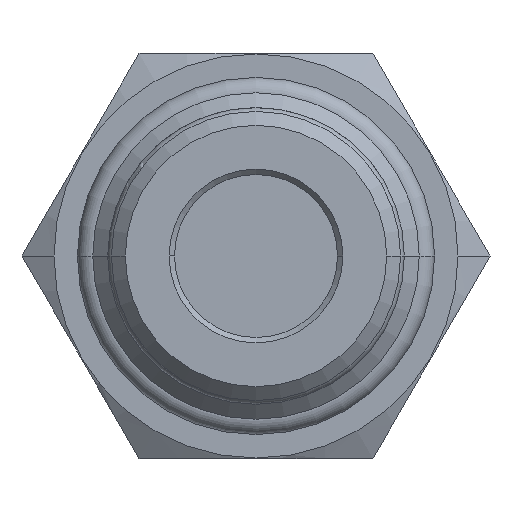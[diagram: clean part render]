
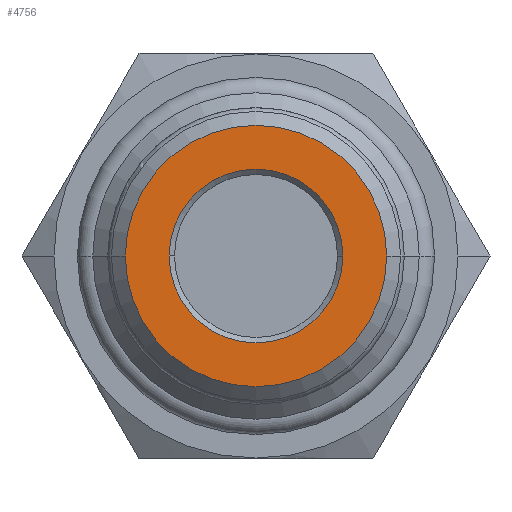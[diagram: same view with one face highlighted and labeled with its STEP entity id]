
A CAD part, front view. The second image highlights one B-rep face of the part: STEP entity #4756.
In plain terms, the highlighted planar face has unit normal (0, -1, 0).
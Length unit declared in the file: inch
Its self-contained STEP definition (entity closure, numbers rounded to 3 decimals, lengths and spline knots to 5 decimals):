
#2492=CARTESIAN_POINT('',(0.,-1.75,0.));
#2493=DIRECTION('',(0.,-1.,0.));
#2494=DIRECTION('',(1.,0.,0.));
#2495=AXIS2_PLACEMENT_3D('',#2492,#2493,#2494);
#2500=CARTESIAN_POINT('',(0.,-1.75,0.));
#2501=DIRECTION('',(0.,-1.,0.));
#2502=DIRECTION('',(-1.,0.,0.));
#2503=AXIS2_PLACEMENT_3D('',#2500,#2501,#2502);
#2508=CARTESIAN_POINT('',(0.,-1.75,0.));
#2509=DIRECTION('',(0.,1.,0.));
#2510=DIRECTION('',(-1.,0.,0.));
#2511=AXIS2_PLACEMENT_3D('',#2508,#2509,#2510);
#2516=CARTESIAN_POINT('',(0.,-1.75,0.));
#2517=DIRECTION('',(0.,1.,0.));
#2518=DIRECTION('',(1.,0.,0.));
#2519=AXIS2_PLACEMENT_3D('',#2516,#2517,#2518);
#3484=CARTESIAN_POINT('',(0.423,-1.75,0.));
#3485=CARTESIAN_POINT('',(-0.423,-1.75,0.));
#3486=VERTEX_POINT('',#3484);
#3487=VERTEX_POINT('',#3485);
#3516=CARTESIAN_POINT('',(-0.281,-1.75,0.));
#3517=CARTESIAN_POINT('',(0.281,-1.75,0.));
#3518=VERTEX_POINT('',#3516);
#3519=VERTEX_POINT('',#3517);
#4740=CARTESIAN_POINT('',(0.,-1.75,0.));
#4741=DIRECTION('',(0.,1.,0.));
#4742=DIRECTION('',(0.,0.,1.));
#4743=AXIS2_PLACEMENT_3D('',#4740,#4741,#4742);
#4744=PLANE('',#4743);
#4745=ORIENTED_EDGE('',*,*,#4730,.F.);
#4747=ORIENTED_EDGE('',*,*,#4746,.F.);
#4748=EDGE_LOOP('',(#4745,#4747));
#4749=FACE_OUTER_BOUND('',#4748,.F.);
#4751=ORIENTED_EDGE('',*,*,#4750,.F.);
#4753=ORIENTED_EDGE('',*,*,#4752,.F.);
#4754=EDGE_LOOP('',(#4751,#4753));
#4755=FACE_BOUND('',#4754,.F.);
#2496=CIRCLE('',#2495,0.423);
#2504=CIRCLE('',#2503,0.423);
#2512=CIRCLE('',#2511,0.281);
#2520=CIRCLE('',#2519,0.281);
#4730=EDGE_CURVE('',#3486,#3487,#2496,.T.);
#4746=EDGE_CURVE('',#3487,#3486,#2504,.T.);
#4750=EDGE_CURVE('',#3518,#3519,#2512,.T.);
#4752=EDGE_CURVE('',#3519,#3518,#2520,.T.);
#4756=ADVANCED_FACE('',(#4749,#4755),#4744,.F.);
